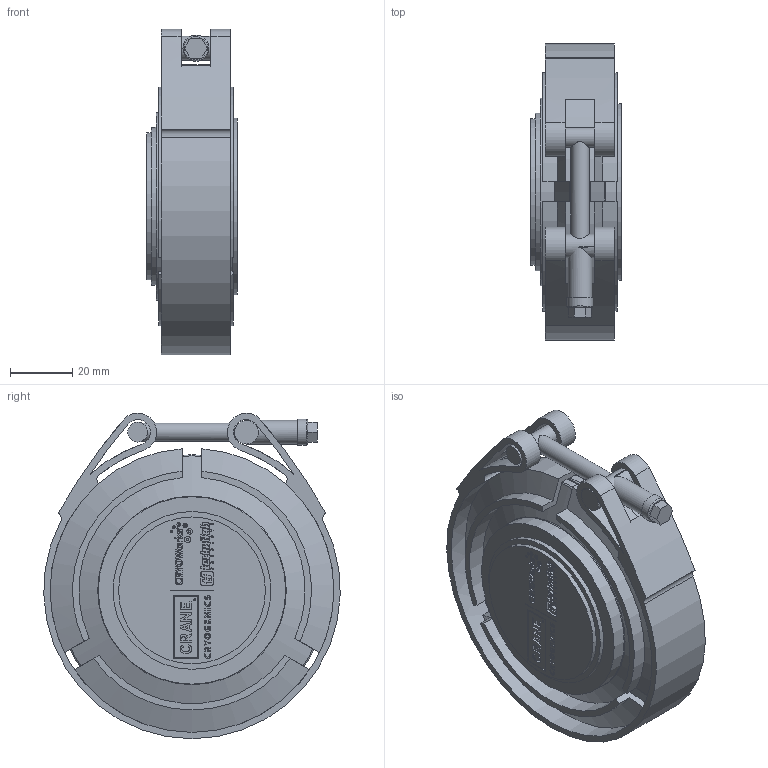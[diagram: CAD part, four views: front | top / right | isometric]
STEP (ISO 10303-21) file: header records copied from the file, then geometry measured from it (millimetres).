
FILE_DESCRIPTION (( 'STEP AP203' ), '1' );
FILE_NAME ('0.5IN T100^PucksSLDASM.STEP', '2026-02-03T18:08:08', ( '' ), ( '' ), 'SwSTEP 2.0', 'SolidWorks 2023', '' );
FILE_SCHEMA (( 'CONFIG_CONTROL_DESIGN' ));
Length unit declared in the file: inch
Products named in the file (4): T100 CLAMP; Copy of M 2in NPS^0.5IN T100_PucksSLDASM; 0.5IN T100^PucksSLDASM; Copy of F 2 OD STD^0.5IN T100_PucksSLDASM
Assembly tree (3 placements, depth 2):
  0.5IN T100^PucksSLDASM
    Copy of F 2 OD STD^0.5IN T100_PucksSLDASM
    Copy of M 2in NPS^0.5IN T100_PucksSLDASM
    T100 CLAMP
Bounding box: 29.21 x 95.38 x 104.69 mm (x, y, z)
Volume: 148808.3 mm3; surface area: 62871.2 mm2
Topology: 4 solids, 4 shells, 1256 faces, 3228 edges, 2148 vertices
Faces by surface type: plane 944, cylinder 185, bspline 106, cone 14, torus 7
Full cylindrical faces by diameter (mm): 0.287 x1, 0.314 x1, 0.341 x1, 0.347 x1, 0.38 x1, 0.392 x1, 0.412 x1, 0.442 x1, 0.473 x1, 0.534 x1, 0.57 x1, 0.59 x1, 0.654 x1, 0.688 x1, 0.697 x1, 0.712 x1, 0.731 x1, 0.77 x1, 0.791 x1, 0.843 x1, 0.878 x1, 0.883 x1, 0.93 x1, 1.061 x1, 1.186 x1, 1.433 x1, 1.465 x1, 1.77 x1, 1.773 x1, 2.064 x1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
Entity records: 43980 total; most frequent: CARTESIAN_POINT 13598, ORIENTED_EDGE 6308, DIRECTION 5622, EDGE_CURVE 3154, VECTOR 2518, LINE 2518, VERTEX_POINT 2144, AXIS2_PLACEMENT_3D 1552
